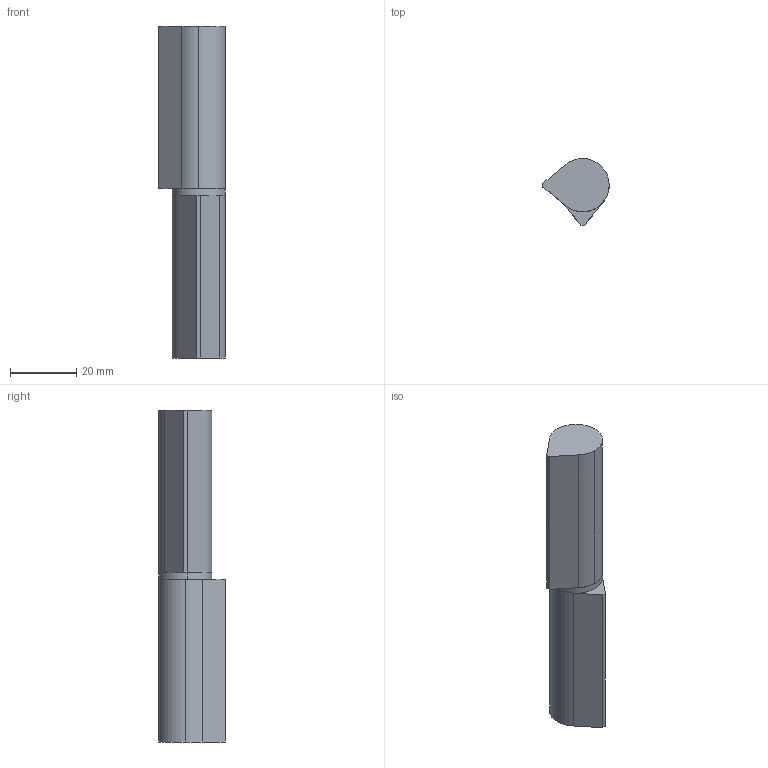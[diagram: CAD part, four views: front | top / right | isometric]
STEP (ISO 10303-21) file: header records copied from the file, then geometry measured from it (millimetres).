
FILE_DESCRIPTION (( 'STEP AP214' ), '1' );
FILE_NAME ('3.ST7-2.004.STEP', '2016-09-09T09:31:32', ( '' ), ( '' ), 'SwSTEP 2.0', 'SolidWorks 2015', '' );
FILE_SCHEMA (( 'AUTOMOTIVE_DESIGN' ));
Length unit declared in the file: millimetre
Products named in the file (4): 3.ST7-1.004.03_A; 3.ST7-1.004.02_A; 3.ST7-2.004.01_A; 3.ST7-2.004
Assembly tree (4 placements, depth 2):
  3.ST7-2.004
    3.ST7-2.004.01_A  x2
    3.ST7-1.004.02_A
    3.ST7-1.004.03_A
Bounding box: 20 x 20 x 100 mm (x, y, z)
Volume: 21880.8 mm3; surface area: 9978 mm2
Topology: 4 solids, 4 shells, 74 faces, 156 edges, 98 vertices
Faces by surface type: plane 34, cylinder 28, cone 12
Entity records: 1768 total; most frequent: DIRECTION 328, CARTESIAN_POINT 268, ORIENTED_EDGE 244, AXIS2_PLACEMENT_3D 139, EDGE_CURVE 122, VERTEX_POINT 79, EDGE_LOOP 73, CIRCLE 72
